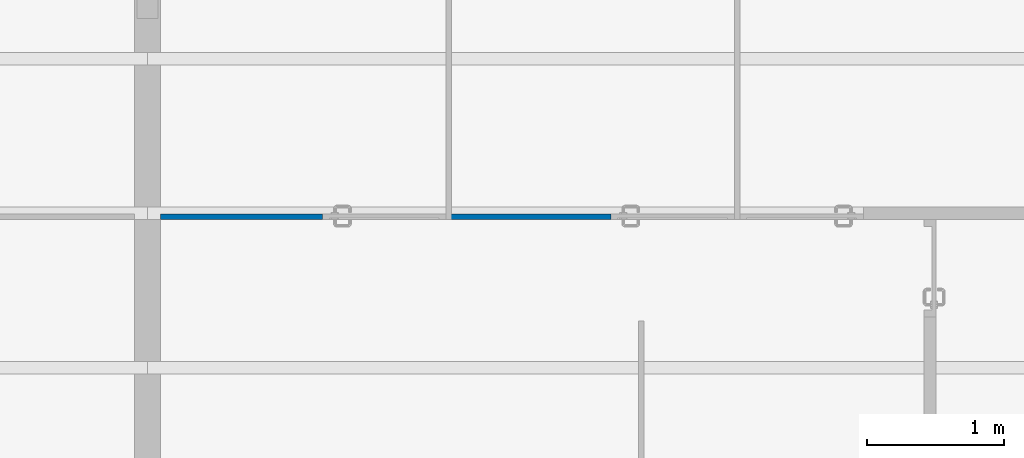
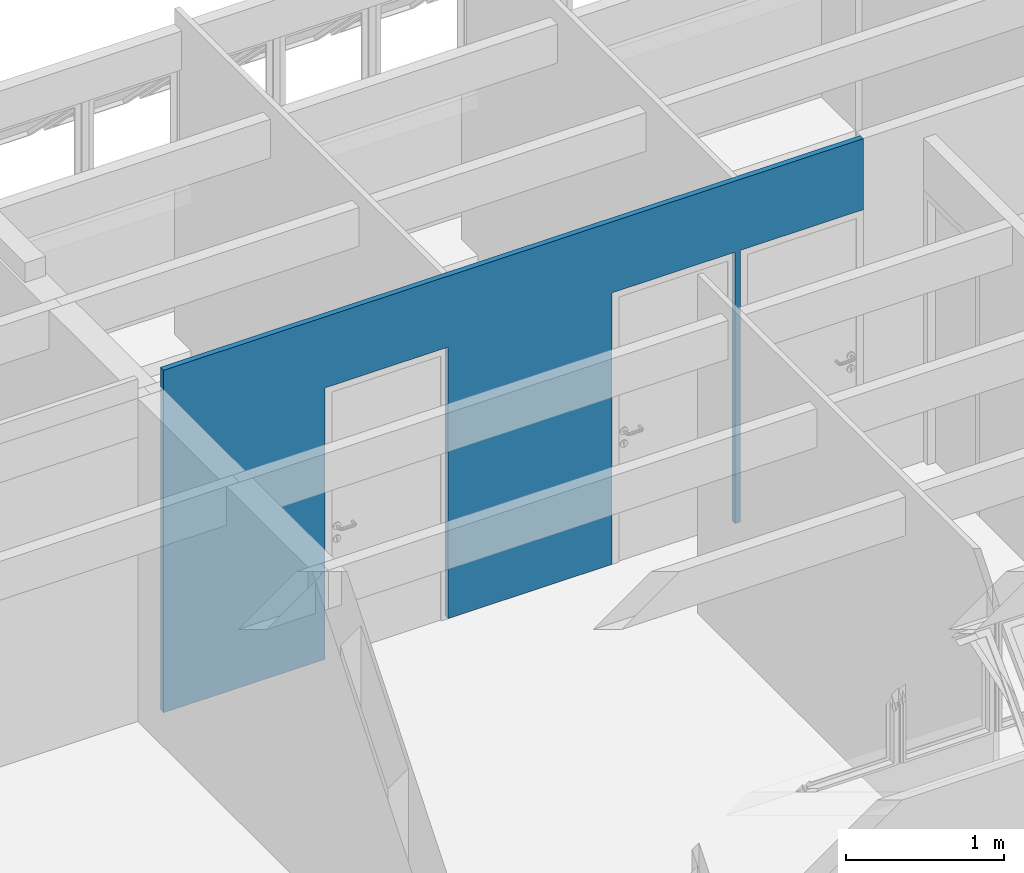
# One storey, part 38 of 41: 1 wall, 3 openings.
"""IFC4 building model written with IfcOpenShell, lengths in millimetres."""

from ifc_helpers import new_model, entity, si_unit, converted_unit, derived_unit, direction, frame, origin_with_axes, origin_2d_with_axis, place, context, subcontext, project, spatial, line, indexed_curve, rectangle, outline, extrude, material, layer, layer_set, layer_usage, type_object, element, save


model = new_model("IFC4")

# Units and contexts
model_context = context("Model", 3, precision=0.01, world=origin_with_axes(), true_north=direction((0.0, 1.0)))
body_context = subcontext(model_context, "Body", "Model", "MODEL_VIEW")
ifc_project = project(units=[si_unit("LENGTHUNIT", "METRE", prefix="MILLI"), si_unit("AREAUNIT", "SQUARE_METRE"), si_unit("VOLUMEUNIT", "CUBIC_METRE"), converted_unit("PLANEANGLEUNIT", "DEGREE", entity("IfcPlaneAngleMeasure", 0.0174532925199), si_unit("PLANEANGLEUNIT", "RADIAN"), dimensions=[0, 0, 0, 0, 0, 0, 0]), converted_unit("TIMEUNIT", "Year", entity("IfcTimeMeasure", 31556926.0), si_unit("TIMEUNIT", "SECOND"), dimensions=[0, 0, 1, 0, 0, 0, 0]), si_unit("MASSUNIT", "GRAM", prefix="KILO"), si_unit("THERMODYNAMICTEMPERATUREUNIT", "DEGREE_CELSIUS"), si_unit("LUMINOUSINTENSITYUNIT", "LUMEN"), si_unit("ENERGYUNIT", "JOULE", prefix="MEGA"), derived_unit("THERMALCONDUCTANCEUNIT", [(si_unit("POWERUNIT", "WATT"), 1), (si_unit("LENGTHUNIT", "METRE"), -1), (si_unit("THERMODYNAMICTEMPERATUREUNIT", "KELVIN"), -1)]), derived_unit("SPECIFICHEATCAPACITYUNIT", [(si_unit("ENERGYUNIT", "JOULE"), 1), (si_unit("MASSUNIT", "GRAM", prefix="KILO"), -1), (si_unit("THERMODYNAMICTEMPERATUREUNIT", "KELVIN"), -1)]), derived_unit("MASSDENSITYUNIT", [(si_unit("MASSUNIT", "GRAM", prefix="KILO"), 1), (si_unit("VOLUMEUNIT", "CUBIC_METRE"), -1)])], contexts=[model_context])

# Site, building, storey
site_placement = place(None, origin_with_axes())
site = spatial("IfcSite", under=ifc_project, at=site_placement, Name="Local", CompositionType="ELEMENT")
building_placement = place(site_placement, origin_with_axes())
building = spatial("IfcBuilding", under=site, at=building_placement, Name="Construção", CompositionType="ELEMENT")
storey_placement = place(building_placement, frame((0.0, 0.0, 2650.0), z_axis=(0.0, 0.0, 1.0), x_axis=(1.0, 0.0, 0.0)))
storey = spatial("IfcBuildingStorey", under=building, at=storey_placement, Name="Segundo Pavimento", CompositionType="ELEMENT", Elevation=2650.0)

# Wall, openings
ifc_material = material(Name="GENÉRICO - VEDAÇÃO EXTERNA")
ifc_layer = layer(ifc_material, 40.0, ventilated="UNKNOWN", Name="GENÉRICO - VEDAÇÃO EXTERNA")
ifc_layer_set = layer_set([ifc_layer], Name="GENÉRICO - VEDAÇÃO EXTERNA 40")
ifc_layer_usage = layer_usage(ifc_layer_set, "AXIS2", "NEGATIVE", 0.0)
wall_type = type_object("IfcWallType", Name="GENÉRICO - VEDAÇÃO EXTERNA 40", PredefinedType="NOTDEFINED")
wall_placement = place(storey_placement, frame((12600.0, 22394.7804333, 0.0), z_axis=(0.0, 0.0, 1.0), x_axis=(-0.99999999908, 4.28841203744e-05, 0.0)))
wall = element("IfcWall", 1, at=wall_placement, inside=storey, type_object=wall_type, material=ifc_layer_usage, Name="APTO8-PAREDE-006", PredefinedType="NOTDEFINED", context=body_context, shape_type="SweptSolid", body=[
    extrude(outline(indexed_curve([(0.00085768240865, -40.0), (5120.00172007, -40.0), (5120.00000471, 0.0), (0.0, 0.0)], segments=[line(1, 2, 3, 4, 1)])), origin_with_axes(), (0.0, 0.0, 1.0), 2650.0),
])
opening_1_placement = place(wall_placement, frame((1390.00000471, 0.0, 0.0), z_axis=(0.0, 0.0, 1.0), x_axis=(1.0, 0.0, 0.0)))
element("IfcOpeningElement", 2, at=opening_1_placement, cuts=wall, Name="APTO8-PORTA-002", context=body_context, shape_type="SweptSolid", body=[
    extrude(rectangle(XDim=900.0, YDim=2100.0, at=origin_2d_with_axis()), frame((0.0, -40.0, 1050.0), z_axis=(0.0, 1.0, 0.0), x_axis=(-1.0, 0.0, 0.0)), (0.0, 0.0, 1.0), 120.0),
])
opening_2_placement = place(wall_placement, frame((450.000004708, 0.0, 0.0), z_axis=(0.0, 0.0, 1.0), x_axis=(1.0, 0.0, 0.0)))
element("IfcOpeningElement", 3, at=opening_2_placement, cuts=wall, Name="APTO8-PORTA-001", context=body_context, shape_type="SweptSolid", body=[
    extrude(rectangle(XDim=900.0, YDim=2100.0, at=origin_2d_with_axis()), frame((0.0, -40.0, 1050.0), z_axis=(0.0, -1.0, 0.0), x_axis=(1.0, 0.0, 0.0)), (0.0, 0.0, -1.0), 120.0),
])
opening_3_placement = place(wall_placement, frame((3490.00000471, 0.0, 0.0), z_axis=(0.0, 0.0, 1.0), x_axis=(1.0, 0.0, 0.0)))
element("IfcOpeningElement", 4, at=opening_3_placement, cuts=wall, Name="APTO8-PORTA-000", context=body_context, shape_type="SweptSolid", body=[
    extrude(rectangle(XDim=900.0, YDim=2100.0, at=origin_2d_with_axis()), frame((0.0, -40.0, 1050.0), z_axis=(0.0, 1.0, 0.0), x_axis=(-1.0, 0.0, 0.0)), (0.0, 0.0, 1.0), 120.0),
])

save(model, "model.ifc")
